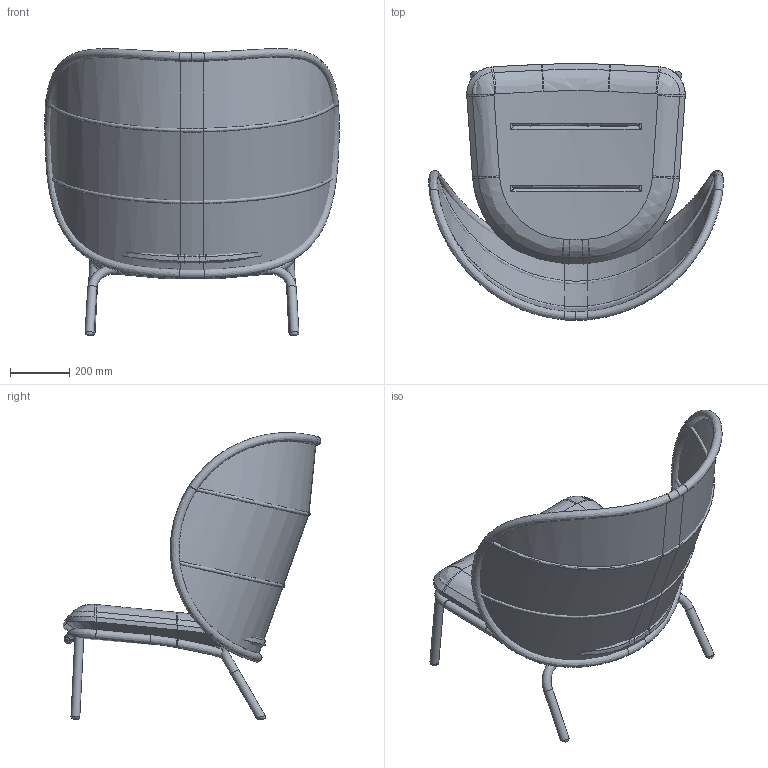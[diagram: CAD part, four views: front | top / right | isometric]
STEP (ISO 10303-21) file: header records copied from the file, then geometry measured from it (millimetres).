
FILE_DESCRIPTION(/* description */ (''),/* implementation_level */ '2;1');
FILE_NAME(/* name */ 'U:/01 COLLECTIE/02 OUTDOOR/01 Producten/Kodo collection/Cocoon/3D/VincentSheppard_Kodo_Cocoon.step',/* time_stamp */ '2019-09-24T08:45:28+02:00',/* author */ (''),/* organization */ (''),/* preprocessor_version */ 'ST-DEVELOPER v18',/* originating_system */ 'Autodesk Translation Framework v8.6.0.1094',/* authorisation */ '');
FILE_SCHEMA (('AUTOMOTIVE_DESIGN { 1 0 10303 214 3 1 1 }'));
Length unit declared in the file: millimetre
Products named in the file (1): VincentSheppard_Kodo_Cocoon
Bounding box: 993.02 x 868.08 x 967.4 mm (x, y, z)
Volume: 42744112.5 mm3; surface area: 3562502.7 mm2
Topology: 9 solids, 10 shells, 198 faces, 469 edges, 288 vertices
Faces by surface type: bspline 145, cylinder 26, plane 24, torus 3
Full cylindrical faces by diameter (mm): 27 x2, 30 x4
Entity records: 19559 total; most frequent: CARTESIAN_POINT 15549, ORIENTED_EDGE 930, DIRECTION 612, EDGE_CURVE 469, VERTEX_POINT 288, AXIS2_PLACEMENT_3D 249, EDGE_LOOP 200, FACE_OUTER_BOUND 198
